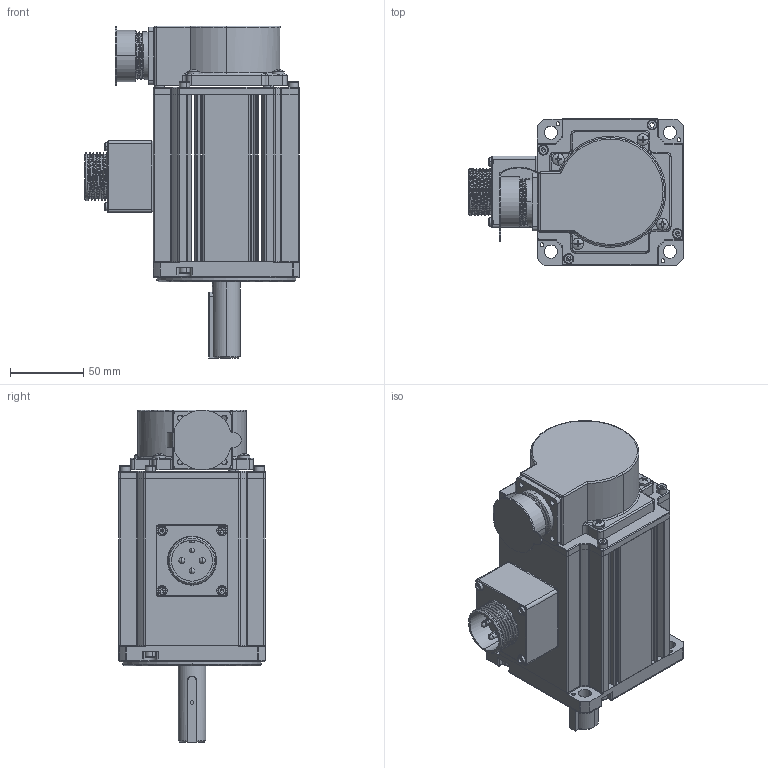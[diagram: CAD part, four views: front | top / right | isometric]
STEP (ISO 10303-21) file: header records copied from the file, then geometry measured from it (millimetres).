
FILE_DESCRIPTION (( 'STEP AP203' ), '1' );
FILE_NAME ('WF100ST-Z1M03230总装-YD28+轴19×55.STEP', '2024-01-30T08:51:34', ( 'lvbing' ), ( 'WG' ), 'SwSTEP 2.0', 'SolidWorks 2018', '' );
FILE_SCHEMA (( 'CONFIG_CONTROL_DESIGN' ));
Length unit declared in the file: millimetre
Products named in the file (2): WF100ST-Z1M03230总装-YD28+轴19×55
Bounding box: 147 x 100 x 227 mm (x, y, z)
Surface area: 127209.2 mm2 (no closed solid volume)
Topology: 0 solids, 54 shells, 973 faces, 2750 edges, 1797 vertices
Faces by surface type: cylinder 418, plane 323, torus 138, cone 45, bspline 31, sphere 18
Entity records: 34430 total; most frequent: CARTESIAN_POINT 9230, DIRECTION 5648, ORIENTED_EDGE 4665, EDGE_CURVE 2709, AXIS2_PLACEMENT_3D 2181, VERTEX_POINT 1789, VECTOR 1286, LINE 1286
